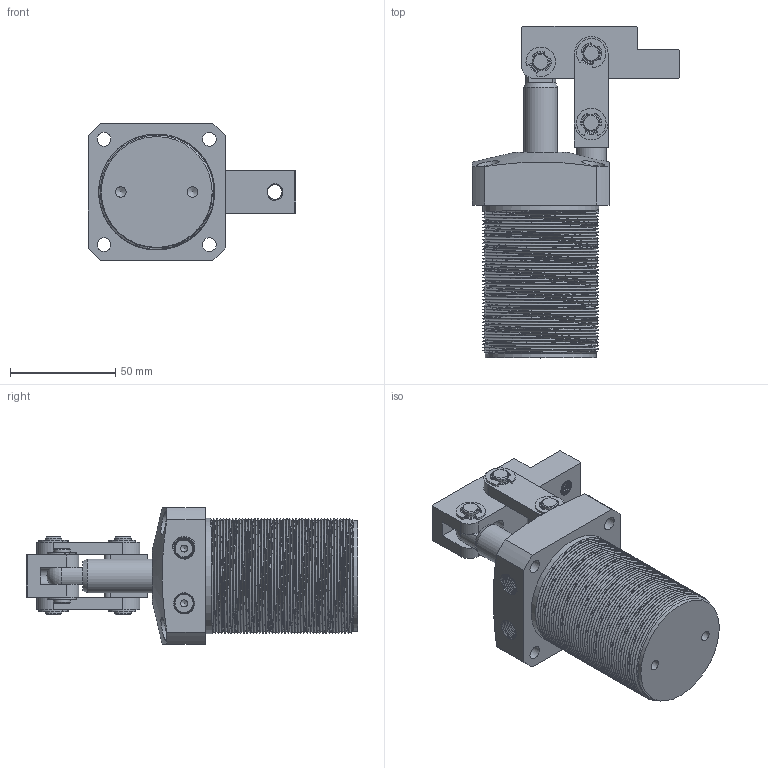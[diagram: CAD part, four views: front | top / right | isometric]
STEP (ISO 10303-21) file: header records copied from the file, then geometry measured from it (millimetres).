
FILE_DESCRIPTION(/* description */ (''),/* implementation_level */ '2;1');
FILE_NAME(/* name */ 'E:\SERWER_ZAPAS\MODELE brakujace\PNEUMATIC\CPLCU(STEP)\cplcu-40_asm\CPLCU-40_ZAMKNIETY.stp',/* time_stamp */ '2019-02-08T14:16:18+01:00',/* author */ ('Admin'),/* organization */ (''),/* preprocessor_version */ 'ST-DEVELOPER v17.2',/* originating_system */ 'Autodesk Inventor 2019',/* authorisation */ '');
FILE_SCHEMA (('AUTOMOTIVE_DESIGN { 1 0 10303 214 3 1 1 }'));
Products named in the file (10): CPLCU-40_ZAMKNIETY; CPLCU-40-07; CPLCU-40-05; CPLCU-40-06; CPLCU-40-01; CPLCU-40-02; CPLCU-40-08; CPLCU-40-03; CPLCU-40-04; LHC01D-40-08
Assembly tree (21 placements, depth 2):
  CPLCU-40_ZAMKNIETY
    CPLCU-40-07
    CPLCU-40-05
    CPLCU-40-06
    CPLCU-40-01
    CPLCU-40-02  x2
    CPLCU-40-08  x6
    CPLCU-40-03
    CPLCU-40-04  x2
    LHC01D-40-08  x6
Bounding box: 98.48 x 157.5 x 65 mm (x, y, z)
Volume: 259924 mm3; surface area: 83037.5 mm2
Topology: 21 solids, 21 shells, 545 faces, 1449 edges, 974 vertices
Faces by surface type: cylinder 251, plane 147, cone 77, bspline 63, torus 6, sphere 1
Full cylindrical faces by diameter (mm): 3.3 x2, 3.4 x14, 5 x2, 6.5 x4, 7 x19, 8 x19, 8.5 x9, 10 x18, 11 x4, 14 x2, 16 x2, 29 x1, 36 x1, 40 x4, 52.6 x1, 55 x44
Entity records: 44951 total; most frequent: CARTESIAN_POINT 35709, ORIENTED_EDGE 1996, DIRECTION 1591, EDGE_CURVE 998, VERTEX_POINT 676, AXIS2_PLACEMENT_3D 616, EDGE_LOOP 428, FACE_OUTER_BOUND 370
